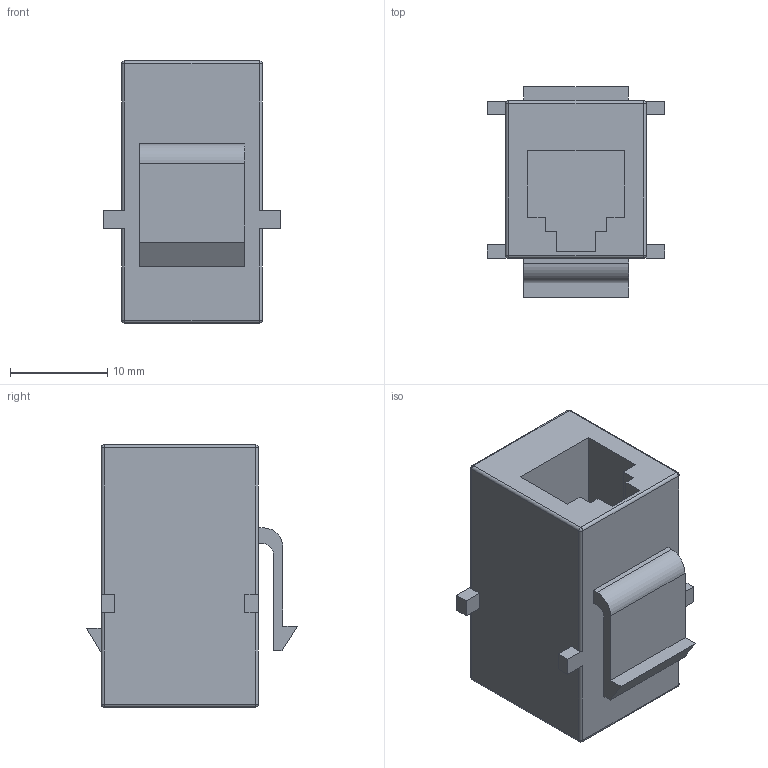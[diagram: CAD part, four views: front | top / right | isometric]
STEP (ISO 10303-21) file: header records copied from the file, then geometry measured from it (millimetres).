
FILE_DESCRIPTION(('FreeCAD Model'),'2;1');
FILE_NAME('Open CASCADE Shape Model','2026-04-22T14:02:19',(''),(''), 'Open CASCADE STEP processor 7.8','FreeCAD','Unknown');
FILE_SCHEMA(('AUTOMOTIVE_DESIGN { 1 0 10303 214 1 1 1 1 }'));
Length unit declared in the file: millimetre
Products named in the file (1): FA-396-6-BK
Bounding box: 18.3 x 21.72 x 27 mm (x, y, z)
Volume: 4399.6 mm3; surface area: 3522.7 mm2
Topology: 1 solids, 1 shells, 87 faces, 235 edges, 146 vertices
Faces by surface type: plane 61, cylinder 18, sphere 8
Entity records: 2651 total; most frequent: CARTESIAN_POINT 461, ORIENTED_EDGE 454, DIRECTION 439, EDGE_CURVE 227, LINE 191, VECTOR 191, VERTEX_POINT 146, AXIS2_PLACEMENT_3D 124
